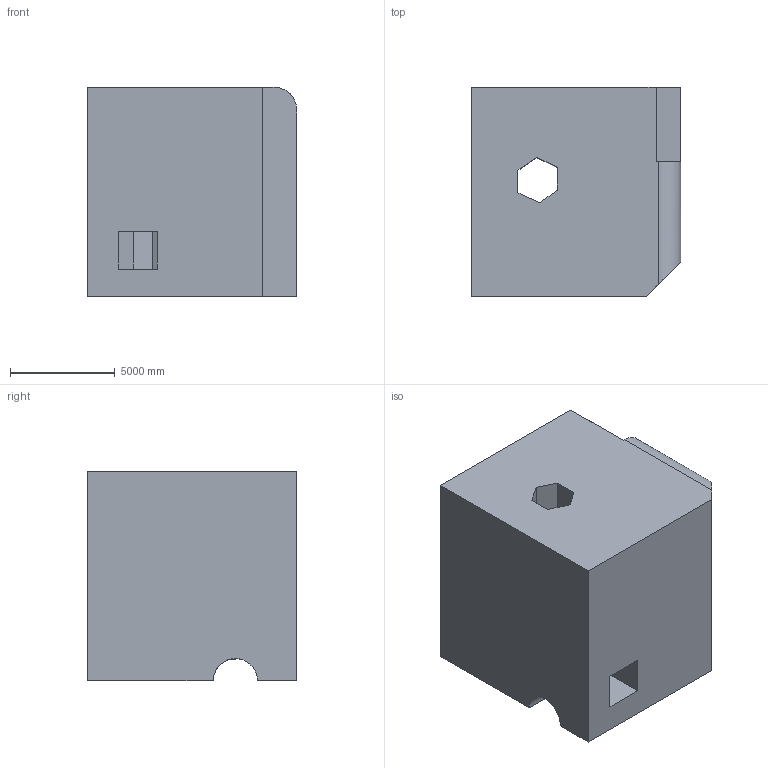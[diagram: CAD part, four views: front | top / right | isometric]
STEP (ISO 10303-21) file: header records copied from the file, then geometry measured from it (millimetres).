
FILE_DESCRIPTION (( 'STEP AP203' ), '1' );
FILE_NAME ('1749.STEP', '2022-08-19T12:22:21', ( 'user' ), ( '' ), 'SwSTEP 2.0', 'SolidWorks 2021', '' );
FILE_SCHEMA (( 'CONFIG_CONTROL_DESIGN' ));
Length unit declared in the file: centimetre
Products named in the file (1): 1749
Bounding box: 10000 x 10000 x 10000 mm (x, y, z)
Volume: 892140589940.4 mm3; surface area: 721356361.3 mm2
Topology: 1 solids, 1 shells, 35 faces, 102 edges, 68 vertices
Faces by surface type: plane 31, cylinder 4
Entity records: 1228 total; most frequent: CARTESIAN_POINT 221, ORIENTED_EDGE 204, DIRECTION 176, EDGE_CURVE 102, VECTOR 90, LINE 90, VERTEX_POINT 68, AXIS2_PLACEMENT_3D 43
